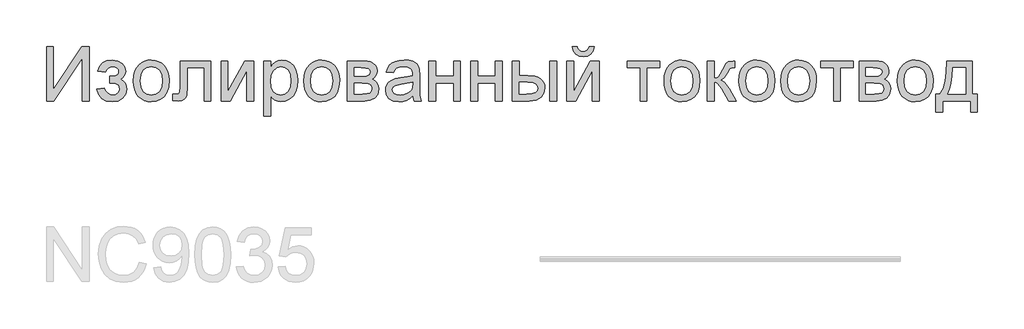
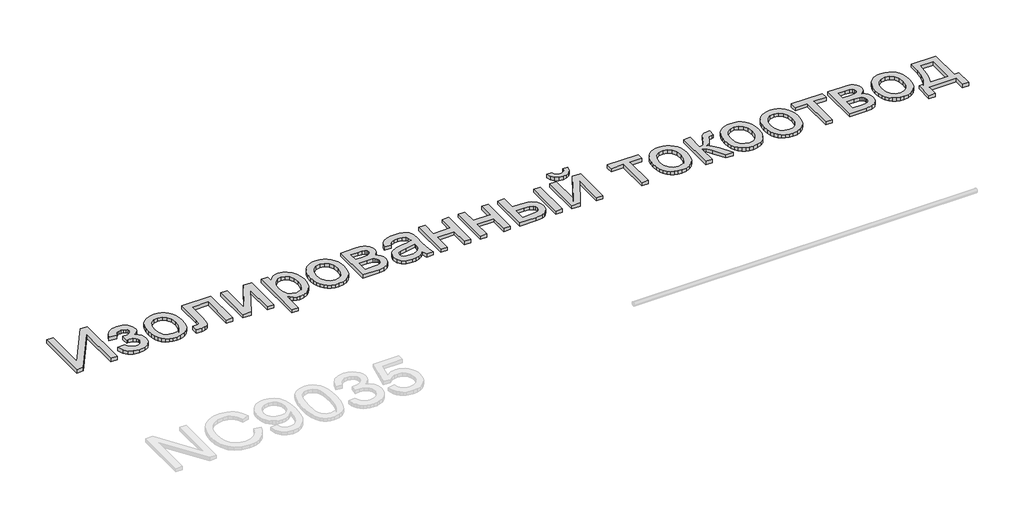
# One storey, part 33 of 124: 1 proxy.
"""IFC4 building model written with IfcOpenShell, lengths in millimetres."""

from ifc_helpers import new_model, si_unit, origin, origin_with_axes, place, context, project, spatial, polyline, outline, extrude, element, save

model = new_model("IFC4")

# Units and contexts
model_context = context("Model", 3, world=origin())
ifc_project = project(units=[si_unit("LENGTHUNIT", "METRE", prefix="MILLI")], contexts=[model_context])

# Site, building, storey
site = spatial("IfcSite", under=ifc_project)
building = spatial("IfcBuilding", under=site)
storey = spatial("IfcBuildingStorey", under=building, Name="Этаж 01", Elevation=0.0)

# Proxy
placement = place(None, origin())
element("IfcBuildingElementProxy", 1, Name="300", ObjectType="300", at=placement, inside=storey, context=model_context, shape_type="SweptSolid", body=[
    extrude(outline(polyline([(1299.8220677, -92247.5042234), (1337.493184, -92247.5042234), (1337.493184, -92486.1860619), (1495.2409835, -92247.5042234), (1535.2665446, -92247.5042234), (1535.2665446, -92548.8731539), (1497.5954283, -92548.8731539), (1497.5954283, -92310.853503), (1340.2155108, -92548.8731539), (1299.8220677, -92548.8731539), (1299.8220677, -92247.5042234)])), origin_with_axes(), (0.0, 0.0, 1.0), 20.0),
    extrude(outline(polyline([(1648.2798935, -92449.9864736), (1648.2798935, -92412.3153573), (1678.0047587, -92410.8438293), (1693.0143441, -92403.0079428), (1698.3118449, -92395.6594999), (1700.0776784, -92386.637194), (1697.7140366, -92375.9226309), (1690.6231112, -92367.6176949), (1679.7981835, -92362.292603), (1666.2325349, -92360.5175724), (1652.5197335, -92362.2834059), (1641.0326182, -92367.5809067), (1631.771189, -92376.4100745), (1624.7354458, -92388.7709096), (1582.35544, -92384.06202), (1593.5942349, -92357.2802108), (1610.6823536, -92338.150347), (1633.619796, -92326.6724288), (1662.4065621, -92322.846456), (1693.8972609, -92327.5093603), (1717.7360142, -92341.4980732), (1732.7455996, -92361.9615092), (1737.7487948, -92386.0485828), (1735.9691656, -92398.4094179), (1730.6302781, -92409.4458777), (1721.7321324, -92419.1579624), (1709.2747283, -92427.5456719), (1723.8152642, -92438.0119146), (1734.1803394, -92451.0165432), (1740.3883481, -92466.5963457), (1742.4576843, -92484.7881103), (1737.2061688, -92512.5172157), (1721.4516224, -92534.4889679), (1696.2609027, -92548.8087745), (1662.7008677, -92553.5820434), (1629.8765967, -92549.1674595), (1604.7594535, -92535.9237077), (1587.3494381, -92513.8507879), (1577.6465505, -92482.9487003), (1620.0265563, -92478.2398108), (1626.3725207, -92494.1691012), (1637.0227045, -92506.0516896), (1650.7447029, -92513.4461178), (1666.3061113, -92515.9109271), (1681.4628495, -92513.5472853), (1693.8236845, -92506.4563598), (1702.0458471, -92495.6866144), (1704.786568, -92482.2865128), (1703.0851138, -92471.6731172), (1697.9807511, -92462.4944614), (1683.4862005, -92451.89946), (1655.6375334, -92449.7657444), (1648.2798935, -92449.9864736)])), origin_with_axes(), (0.0, 0.0, 1.0), 20.0),
    extrude(outline(polyline([(1780.1288006, -92438.2142497), (1782.1659471, -92409.5516438), (1788.2773868, -92384.8529663), (1798.4631195, -92364.1182174), (1812.7231454, -92347.3473969), (1827.0797402, -92336.6282353), (1842.9262572, -92328.9716913), (1860.2626962, -92324.3777649), (1879.0890573, -92322.846456), (1899.8720908, -92324.7111579), (1918.6639629, -92330.3052635), (1935.4646738, -92339.6287728), (1950.2742234, -92352.6816859), (1962.3614462, -92369.0225442), (1970.9951767, -92388.2098895), (1976.1754151, -92410.2437218), (1977.9021612, -92435.124041), (1974.8487406, -92473.1814334), (1965.688479, -92502.1521405), (1950.6880906, -92523.8479812), (1930.11429, -92540.0807742), (1905.6777285, -92550.2067261), (1879.0890573, -92553.5820434), (1858.0025212, -92551.7242393), (1839.0359051, -92546.1508271), (1822.189209, -92536.8618067), (1807.4624328, -92523.8571782), (1795.5039687, -92507.3576707), (1786.9622087, -92487.5840135), (1781.8371526, -92464.5362065), (1780.1288006, -92438.2142497)]), holes=[polyline([(1817.7999169, -92438.1406733), (1822.1593185, -92472.2341372), (1835.2375235, -92496.523546), (1854.9192102, -92511.0640818), (1879.0890573, -92515.9109271), (1903.1485398, -92511.0364907), (1922.7934383, -92496.4131814), (1935.8716433, -92471.8018759), (1940.2310449, -92436.963451), (1935.8440521, -92403.8632684), (1922.6830737, -92379.9049535), (1903.010584, -92365.3644176), (1879.0890573, -92360.5175724), (1854.9192102, -92365.3460235), (1835.2375235, -92379.8313771), (1822.1593185, -92404.0656035), (1817.7999169, -92438.1406733)])]), origin_with_axes(), (0.0, 0.0, 1.0), 20.0),
    extrude(outline(polyline([(2039.1177252, -92327.5553456), (2208.6377486, -92327.5553456), (2208.6377486, -92548.6524247), (2170.9666323, -92548.6524247), (2170.9666323, -92365.2264619), (2076.7888415, -92365.2264619), (2076.7888415, -92470.8085945), (2074.2504557, -92519.5161707), (2069.495581, -92530.5434335), (2060.3077281, -92540.0807742), (2046.3650005, -92546.675059), (2027.3455014, -92548.8731539), (1996.7377194, -92546.9601675), (1996.7377194, -92511.2020376), (2013.5867147, -92511.2020376), (2030.6196511, -92508.884381), (2037.425468, -92501.5267411), (2039.1177252, -92468.6748789), (2039.1177252, -92327.5553456)])), origin_with_axes(), (0.0, 0.0, 1.0), 20.0),
    extrude(outline(polyline([(2265.144423, -92327.5553456), (2302.8155393, -92327.5553456), (2302.8155393, -92496.339605), (2395.3746493, -92327.5553456), (2444.0822255, -92327.5553456), (2444.0822255, -92548.8731539), (2406.4111092, -92548.8731539), (2406.4111092, -92381.1189641), (2314.4406104, -92548.8731539), (2265.144423, -92548.8731539), (2265.144423, -92327.5553456)])), origin_with_axes(), (0.0, 0.0, 1.0), 20.0),
    extrude(outline(polyline([(2500.5889, -92633.6331656), (2500.5889, -92327.5553456), (2538.2600163, -92327.5553456), (2538.2600163, -92364.4906979), (2550.5472749, -92346.2713421), (2564.3060615, -92333.2575165), (2580.3457165, -92325.4492212), (2599.4755803, -92322.846456), (2624.9514084, -92326.4884878), (2647.2266632, -92337.4145831), (2665.3632456, -92354.9625542), (2678.4230564, -92378.4702137), (2686.3141252, -92406.2269103), (2688.9444815, -92436.5219926), (2685.9738344, -92468.7392583), (2677.061893, -92497.5536156), (2662.493766, -92521.5027334), (2642.5545619, -92539.124281), (2619.3320109, -92549.9676028), (2594.9138435, -92553.5820434), (2577.5957986, -92551.1632193), (2562.1355577, -92543.906747), (2548.901003, -92532.9530605), (2538.2600163, -92519.4425943), (2538.2600163, -92633.6331656), (2500.5889, -92633.6331656)]), holes=[polyline([(2538.2600163, -92439.9800833), (2542.3343094, -92473.7516505), (2554.5571886, -92497.3696746), (2572.5926035, -92511.275614), (2594.1045031, -92515.9109271), (2615.9658907, -92511.1100671), (2634.461158, -92496.707487), (2647.0703134, -92472.2249402), (2651.2733652, -92437.1841801), (2647.1714809, -92403.596554), (2634.8658282, -92379.6474361), (2616.8580045, -92365.3000383), (2595.6496075, -92360.5175724), (2574.358437, -92365.6035409), (2555.6608346, -92380.8614467), (2542.6102208, -92405.813043), (2538.2600163, -92439.9800833)])]), origin_with_axes(), (0.0, 0.0, 1.0), 20.0),
    extrude(outline(polyline([(2721.9067082, -92438.2142497), (2723.9438548, -92409.5516438), (2730.0552944, -92384.8529663), (2740.2410272, -92364.1182174), (2754.501053, -92347.3473969), (2768.8576479, -92336.6282353), (2784.7041648, -92328.9716913), (2802.0406038, -92324.3777649), (2820.866965, -92322.846456), (2841.6499984, -92324.7111579), (2860.4418706, -92330.3052635), (2877.2425815, -92339.6287728), (2892.052131, -92352.6816859), (2904.1393538, -92369.0225442), (2912.7730844, -92388.2098895), (2917.9533227, -92410.2437218), (2919.6800689, -92435.124041), (2916.6266483, -92473.1814334), (2907.4663866, -92502.1521405), (2892.4659983, -92523.8479812), (2871.8921977, -92540.0807742), (2847.4556362, -92550.2067261), (2820.866965, -92553.5820434), (2799.7804288, -92551.7242393), (2780.8138127, -92546.1508271), (2763.9671166, -92536.8618067), (2749.2403405, -92523.8571782), (2737.2818764, -92507.3576707), (2728.7401163, -92487.5840135), (2723.6150603, -92464.5362065), (2721.9067082, -92438.2142497)]), holes=[polyline([(2759.5778246, -92438.1406733), (2763.9372262, -92472.2341372), (2777.0154311, -92496.523546), (2796.6971179, -92511.0640818), (2820.866965, -92515.9109271), (2844.9264474, -92511.0364907), (2864.571346, -92496.4131814), (2877.6495509, -92471.8018759), (2882.0089526, -92436.963451), (2877.6219598, -92403.8632684), (2864.4609814, -92379.9049535), (2844.7884917, -92365.3644176), (2820.866965, -92360.5175724), (2796.6971179, -92365.3460235), (2777.0154311, -92379.8313771), (2763.9372262, -92404.0656035), (2759.5778246, -92438.1406733)])]), origin_with_axes(), (0.0, 0.0, 1.0), 20.0),
    extrude(outline(polyline([(2962.0600747, -92327.5553456), (3045.0542528, -92327.5553456), (3071.7348945, -92328.8153414), (3090.5612556, -92332.5953289), (3104.4120127, -92339.7322396), (3116.1658425, -92351.0630051), (3124.194867, -92365.8242701), (3126.8712085, -92383.2526797), (3125.2525278, -92397.2965748), (3120.3964854, -92409.4090895), (3112.2846874, -92419.645406), (3100.8987397, -92428.0607067), (3114.8414673, -92435.8873961), (3126.2090209, -92448.4781574), (3133.7689959, -92464.8397091), (3136.2889876, -92483.9787699), (3129.906235, -92512.6919597), (3114.7311027, -92532.9070753), (3090.7084084, -92544.8816342), (3057.7829698, -92548.8731539), (2962.0600747, -92548.8731539), (2962.0600747, -92327.5553456)]), holes=[polyline([(2999.731191, -92412.3153573), (3036.9608489, -92412.3153573), (3067.6789955, -92410.4023709), (3082.6150045, -92402.7504254), (3087.5538203, -92396.4228551), (3089.2000922, -92388.9180624), (3086.3122186, -92377.6792674), (3077.6485976, -92370.4503862), (3061.9952187, -92366.532443), (3038.1380713, -92365.2264619), (2999.731191, -92365.2264619), (2999.731191, -92412.3153573)]), polyline([(2999.731191, -92511.2020376), (3045.9371696, -92511.2020376), (3071.1186922, -92509.5005834), (3086.9192239, -92504.3962207), (3095.3989039, -92495.1163973), (3098.6178713, -92480.8885612), (3097.0083876, -92471.4615851), (3092.1799364, -92462.7519788), (3084.7671142, -92455.9369649), (3075.4045174, -92452.1937656), (3042.2583496, -92449.9864736), (2999.731191, -92449.9864736), (2999.731191, -92511.2020376)])]), origin_with_axes(), (0.0, 0.0, 1.0), 20.0),
    extrude(outline(polyline([(3324.6445691, -92520.6198167), (3306.6459425, -92536.0524664), (3288.113887, -92546.1508271), (3268.6253383, -92551.7242393), (3247.7572322, -92553.5820434), (3216.2757304, -92549.1122772), (3193.0531795, -92535.7029785), (3178.7333728, -92515.34071), (3173.9601039, -92490.0120347), (3175.7627257, -92474.395444), (3181.170591, -92460.213593), (3189.5123153, -92448.0734872), (3200.1165138, -92438.5821317), (3226.4936528, -92426.2212967), (3259.0879976, -92420.555914), (3297.6052425, -92414.5962256), (3324.4238399, -92407.6064677), (3324.6445691, -92399.2187582), (3322.0510011, -92382.4065511), (3314.2702969, -92371.4068794), (3296.8694785, -92363.2398991), (3272.626055, -92360.5175724), (3250.1852533, -92362.3293912), (3234.5134803, -92367.7648477), (3223.8265084, -92377.8172232), (3216.3401098, -92393.4797991), (3178.6689935, -92388.7709096), (3185.2080959, -92368.1695179), (3194.9661658, -92351.9827101), (3208.8537112, -92339.6034809), (3227.7812398, -92330.4248251), (3250.9302144, -92324.7410483), (3277.4820974, -92322.846456), (3302.9487285, -92324.5203191), (3323.136253, -92329.5419084), (3338.3573705, -92337.0926863), (3348.9247808, -92346.3541155), (3355.9329328, -92357.8044426), (3360.4762755, -92371.9219142), (3362.3156855, -92404.884141), (3362.3156855, -92451.7523072), (3364.2286718, -92517.1985141), (3371.7334645, -92548.8731539), (3334.0623482, -92548.8731539), (3324.6445691, -92520.6198167)]), holes=[polyline([(3324.6445691, -92445.277584), (3263.8704635, -92456.8290787), (3231.4600598, -92462.9359198), (3216.7815682, -92472.8687337), (3211.6312202, -92487.3632843), (3214.4363204, -92498.565291), (3222.8516211, -92507.7439468), (3236.6931811, -92513.869182), (3255.7770596, -92515.9109271), (3276.0105694, -92513.6576499), (3293.8896343, -92506.8978182), (3308.384185, -92496.9374132), (3318.4641516, -92485.0824159), (3322.9339179, -92472.8687337), (3324.4238399, -92455.9461619), (3324.6445691, -92445.277584)])]), origin_with_axes(), (0.0, 0.0, 1.0), 20.0),
    extrude(outline(polyline([(3414.1134704, -92327.5553456), (3451.7845867, -92327.5553456), (3451.7845867, -92412.3153573), (3550.671267, -92412.3153573), (3550.671267, -92327.5553456), (3588.3423833, -92327.5553456), (3588.3423833, -92548.8731539), (3550.671267, -92548.8731539), (3550.671267, -92449.9864736), (3451.7845867, -92449.9864736), (3451.7845867, -92548.8731539), (3414.1134704, -92548.8731539), (3414.1134704, -92327.5553456)])), origin_with_axes(), (0.0, 0.0, 1.0), 20.0),
    extrude(outline(polyline([(3644.8490577, -92327.5553456), (3682.5201741, -92327.5553456), (3682.5201741, -92412.3153573), (3781.4068544, -92412.3153573), (3781.4068544, -92327.5553456), (3819.0779707, -92327.5553456), (3819.0779707, -92548.8731539), (3781.4068544, -92548.8731539), (3781.4068544, -92449.9864736), (3682.5201741, -92449.9864736), (3682.5201741, -92548.8731539), (3644.8490577, -92548.8731539), (3644.8490577, -92327.5553456)])), origin_with_axes(), (0.0, 0.0, 1.0), 20.0),
    extrude(outline(polyline([(4082.7757848, -92327.5553456), (4120.4469011, -92327.5553456), (4120.4469011, -92548.8731539), (4082.7757848, -92548.8731539), (4082.7757848, -92327.5553456)])), origin_with_axes(), (0.0, 0.0, 1.0), 20.0),
    extrude(outline(polyline([(3875.5846451, -92327.5553456), (3913.2557614, -92327.5553456), (3913.2557614, -92407.6064677), (3959.829622, -92407.6064677), (4000.0851093, -92412.3245543), (4016.3018075, -92418.2221626), (4029.9111421, -92426.4788141), (4040.6785882, -92436.8094004), (4048.3696212, -92448.9288128), (4052.984241, -92462.8370515), (4054.5224476, -92478.5341164), (4049.3629026, -92505.4906696), (4033.8842676, -92528.234974), (4022.0223726, -92537.2641777), (4007.0748672, -92543.7136089), (3967.9230259, -92548.8731539), (3875.5846451, -92548.8731539), (3875.5846451, -92327.5553456)]), holes=[polyline([(3913.2557614, -92511.2020376), (3951.9569473, -92511.2020376), (3981.957724, -92509.2246719), (4001.9153223, -92503.2925747), (4013.117329, -92493.1666228), (4016.8513313, -92478.6076928), (4014.0830193, -92466.3020401), (4005.7780832, -92455.4311271), (3988.0185799, -92447.8159698), (3956.8865661, -92445.277584), (3913.2557614, -92445.277584), (3913.2557614, -92511.2020376)])]), origin_with_axes(), (0.0, 0.0, 1.0), 20.0),
    extrude(outline(polyline([(4176.9535756, -92327.5553456), (4214.6246919, -92327.5553456), (4214.6246919, -92496.339605), (4307.1838019, -92327.5553456), (4355.891378, -92327.5553456), (4355.891378, -92548.8731539), (4318.2202617, -92548.8731539), (4318.2202617, -92381.1189641), (4226.2497629, -92548.8731539), (4176.9535756, -92548.8731539), (4176.9535756, -92327.5553456)])), origin_with_axes(), (0.0, 0.0, 1.0), 20.0),
    extrude(outline(polyline([(4299.3847036, -92247.5042234), (4327.6380408, -92247.5042234), (4321.5587908, -92271.6280853), (4309.3543056, -92289.4059827), (4291.5764082, -92300.3596691), (4268.7769216, -92304.0108979), (4244.0368574, -92300.3872602), (4224.8518113, -92289.5163473), (4211.7368182, -92271.766041), (4205.2069128, -92247.5042234), (4233.46025, -92247.5042234), (4237.4333756, -92259.9110437), (4244.0552515, -92268.7310146), (4253.362666, -92274.0009241), (4265.3924072, -92275.7575607), (4278.9672528, -92274.0561064), (4288.7897021, -92268.9517438), (4295.411578, -92260.1869552), (4299.3847036, -92247.5042234)])), origin_with_axes(), (0.0, 0.0, 1.0), 20.0),
    extrude(outline(polyline([(4511.2847328, -92327.5553456), (4690.2225352, -92327.5553456), (4690.2225352, -92365.2264619), (4619.5891922, -92365.2264619), (4619.5891922, -92548.8731539), (4581.9180759, -92548.8731539), (4581.9180759, -92365.2264619), (4511.2847328, -92365.2264619), (4511.2847328, -92327.5553456)])), origin_with_axes(), (0.0, 0.0, 1.0), 20.0),
    extrude(outline(polyline([(4713.7669829, -92438.2142497), (4715.8041295, -92409.5516438), (4721.9155691, -92384.8529663), (4732.1013019, -92364.1182174), (4746.3613277, -92347.3473969), (4760.7179226, -92336.6282353), (4776.5644395, -92328.9716913), (4793.9008785, -92324.3777649), (4812.7272396, -92322.846456), (4833.5102731, -92324.7111579), (4852.3021453, -92330.3052635), (4869.1028561, -92339.6287728), (4883.9124057, -92352.6816859), (4895.9996285, -92369.0225442), (4904.6333591, -92388.2098895), (4909.8135974, -92410.2437218), (4911.5403435, -92435.124041), (4908.486923, -92473.1814334), (4899.3266613, -92502.1521405), (4884.3262729, -92523.8479812), (4863.7524724, -92540.0807742), (4839.3159108, -92550.2067261), (4812.7272396, -92553.5820434), (4791.6407035, -92551.7242393), (4772.6740874, -92546.1508271), (4755.8273913, -92536.8618067), (4741.1006152, -92523.8571782), (4729.1421511, -92507.3576707), (4720.600391, -92487.5840135), (4715.4753349, -92464.5362065), (4713.7669829, -92438.2142497)]), holes=[polyline([(4751.4380992, -92438.1406733), (4755.7975009, -92472.2341372), (4768.8757058, -92496.523546), (4788.5573926, -92511.0640818), (4812.7272396, -92515.9109271), (4836.7867221, -92511.0364907), (4856.4316207, -92496.4131814), (4869.5098256, -92471.8018759), (4873.8692272, -92436.963451), (4869.4822344, -92403.8632684), (4856.3212561, -92379.9049535), (4836.6487664, -92365.3644176), (4812.7272396, -92360.5175724), (4788.5573926, -92365.3460235), (4768.8757058, -92379.8313771), (4755.7975009, -92404.0656035), (4751.4380992, -92438.1406733)])]), origin_with_axes(), (0.0, 0.0, 1.0), 20.0),
    extrude(outline(polyline([(4953.9203494, -92327.5553456), (4991.5914657, -92327.5553456), (4991.5914657, -92421.7331364), (5006.9137508, -92420.0408792), (5016.8281706, -92414.9641076), (5025.6021561, -92401.7203558), (5037.5031387, -92375.5271578), (5054.6832279, -92341.4980732), (5069.8399661, -92330.4248251), (5097.3943275, -92327.5553456), (5104.6048146, -92327.5553456), (5104.6048146, -92365.4471911), (5094.4512715, -92365.2264619), (5076.0571718, -92369.1995874), (5063.1077256, -92393.9948339), (5047.9141992, -92420.8134314), (5026.6138316, -92433.9468186), (5038.5516024, -92439.2489178), (5050.3790085, -92448.6069161), (5073.702727, -92479.4906096), (5114.0225937, -92548.8731539), (5071.2011294, -92548.8731539), (5031.6906032, -92480.9621376), (5011.8249754, -92452.2305538), (5002.535955, -92447.0158265), (4991.5914657, -92445.277584), (4991.5914657, -92548.8731539), (4953.9203494, -92548.8731539), (4953.9203494, -92327.5553456)])), origin_with_axes(), (0.0, 0.0, 1.0), 20.0),
    extrude(outline(polyline([(5128.1492623, -92438.2142497), (5130.1864088, -92409.5516438), (5136.2978485, -92384.8529663), (5146.4835812, -92364.1182174), (5160.7436071, -92347.3473969), (5175.1002019, -92336.6282353), (5190.9467189, -92328.9716913), (5208.2831579, -92324.3777649), (5227.109519, -92322.846456), (5247.8925525, -92324.7111579), (5266.6844246, -92330.3052635), (5283.4851355, -92339.6287728), (5298.2946851, -92352.6816859), (5310.3819079, -92369.0225442), (5319.0156384, -92388.2098895), (5324.1958768, -92410.2437218), (5325.9226229, -92435.124041), (5322.8692023, -92473.1814334), (5313.7089407, -92502.1521405), (5298.7085523, -92523.8479812), (5278.1347517, -92540.0807742), (5253.6981902, -92550.2067261), (5227.109519, -92553.5820434), (5206.0229829, -92551.7242393), (5187.0563668, -92546.1508271), (5170.2096707, -92536.8618067), (5155.4828945, -92523.8571782), (5143.5244304, -92507.3576707), (5134.9826704, -92487.5840135), (5129.8576143, -92464.5362065), (5128.1492623, -92438.2142497)]), holes=[polyline([(5165.8203786, -92438.1406733), (5170.1797803, -92472.2341372), (5183.2579852, -92496.523546), (5202.9396719, -92511.0640818), (5227.109519, -92515.9109271), (5251.1690015, -92511.0364907), (5270.8139, -92496.4131814), (5283.892105, -92471.8018759), (5288.2515066, -92436.963451), (5283.8645138, -92403.8632684), (5270.7035354, -92379.9049535), (5251.0310457, -92365.3644176), (5227.109519, -92360.5175724), (5202.9396719, -92365.3460235), (5183.2579852, -92379.8313771), (5170.1797803, -92404.0656035), (5165.8203786, -92438.1406733)])]), origin_with_axes(), (0.0, 0.0, 1.0), 20.0),
    extrude(outline(polyline([(5358.8848497, -92438.2142497), (5360.9219962, -92409.5516438), (5367.0334359, -92384.8529663), (5377.2191686, -92364.1182174), (5391.4791944, -92347.3473969), (5405.8357893, -92336.6282353), (5421.6823063, -92328.9716913), (5439.0187453, -92324.3777649), (5457.8451064, -92322.846456), (5478.6281398, -92324.7111579), (5497.420012, -92330.3052635), (5514.2207229, -92339.6287728), (5529.0302724, -92352.6816859), (5541.1174952, -92369.0225442), (5549.7512258, -92388.2098895), (5554.9314642, -92410.2437218), (5556.6582103, -92435.124041), (5553.6047897, -92473.1814334), (5544.444528, -92502.1521405), (5529.4441397, -92523.8479812), (5508.8703391, -92540.0807742), (5484.4337776, -92550.2067261), (5457.8451064, -92553.5820434), (5436.7585703, -92551.7242393), (5417.7919542, -92546.1508271), (5400.945258, -92536.8618067), (5386.2184819, -92523.8571782), (5374.2600178, -92507.3576707), (5365.7182577, -92487.5840135), (5360.5932017, -92464.5362065), (5358.8848497, -92438.2142497)]), holes=[polyline([(5396.555966, -92438.1406733), (5400.9153676, -92472.2341372), (5413.9935726, -92496.523546), (5433.6752593, -92511.0640818), (5457.8451064, -92515.9109271), (5481.9045889, -92511.0364907), (5501.5494874, -92496.4131814), (5514.6276923, -92471.8018759), (5518.987094, -92436.963451), (5514.6001012, -92403.8632684), (5501.4391228, -92379.9049535), (5481.7666331, -92365.3644176), (5457.8451064, -92360.5175724), (5433.6752593, -92365.3460235), (5413.9935726, -92379.8313771), (5400.9153676, -92404.0656035), (5396.555966, -92438.1406733)])]), origin_with_axes(), (0.0, 0.0, 1.0), 20.0),
    extrude(outline(polyline([(5580.202658, -92327.5553456), (5759.1404604, -92327.5553456), (5759.1404604, -92365.2264619), (5688.5071174, -92365.2264619), (5688.5071174, -92548.8731539), (5650.836001, -92548.8731539), (5650.836001, -92365.2264619), (5580.202658, -92365.2264619), (5580.202658, -92327.5553456)])), origin_with_axes(), (0.0, 0.0, 1.0), 20.0),
    extrude(outline(polyline([(5792.1026872, -92327.5553456), (5875.0968653, -92327.5553456), (5901.777507, -92328.8153414), (5920.6038681, -92332.5953289), (5934.4546252, -92339.7322396), (5946.208455, -92351.0630051), (5954.2374795, -92365.8242701), (5956.913821, -92383.2526797), (5955.2951403, -92397.2965748), (5950.4390979, -92409.4090895), (5942.3272999, -92419.645406), (5930.9413522, -92428.0607067), (5944.8840798, -92435.8873961), (5956.2516334, -92448.4781574), (5963.8116084, -92464.8397091), (5966.3316001, -92483.9787699), (5959.9488475, -92512.6919597), (5944.7737152, -92532.9070753), (5920.7510209, -92544.8816342), (5887.8255823, -92548.8731539), (5792.1026872, -92548.8731539), (5792.1026872, -92327.5553456)]), holes=[polyline([(5829.7738035, -92412.3153573), (5867.0034614, -92412.3153573), (5897.721608, -92410.4023709), (5912.657617, -92402.7504254), (5917.5964328, -92396.4228551), (5919.2427047, -92388.9180624), (5916.3548311, -92377.6792674), (5907.6912101, -92370.4503862), (5892.0378312, -92366.532443), (5868.1806838, -92365.2264619), (5829.7738035, -92365.2264619), (5829.7738035, -92412.3153573)]), polyline([(5829.7738035, -92511.2020376), (5875.9797821, -92511.2020376), (5901.1613047, -92509.5005834), (5916.9618364, -92504.3962207), (5925.4415163, -92495.1163973), (5928.6604838, -92480.8885612), (5927.0510001, -92471.4615851), (5922.2225489, -92462.7519788), (5914.8097267, -92455.9369649), (5905.4471299, -92452.1937656), (5872.3009621, -92449.9864736), (5829.7738035, -92449.9864736), (5829.7738035, -92511.2020376)])]), origin_with_axes(), (0.0, 0.0, 1.0), 20.0),
    extrude(outline(polyline([(6004.0027164, -92438.2142497), (6006.039863, -92409.5516438), (6012.1513026, -92384.8529663), (6022.3370354, -92364.1182174), (6036.5970612, -92347.3473969), (6050.9536561, -92336.6282353), (6066.800173, -92328.9716913), (6084.136612, -92324.3777649), (6102.9629731, -92322.846456), (6123.7460066, -92324.7111579), (6142.5378788, -92330.3052635), (6159.3385896, -92339.6287728), (6174.1481392, -92352.6816859), (6186.235362, -92369.0225442), (6194.8690926, -92388.2098895), (6200.0493309, -92410.2437218), (6201.776077, -92435.124041), (6198.7226565, -92473.1814334), (6189.5623948, -92502.1521405), (6174.5620064, -92523.8479812), (6153.9882059, -92540.0807742), (6129.5516443, -92550.2067261), (6102.9629731, -92553.5820434), (6081.876437, -92551.7242393), (6062.9098209, -92546.1508271), (6046.0631248, -92536.8618067), (6031.3363487, -92523.8571782), (6019.3778846, -92507.3576707), (6010.8361245, -92487.5840135), (6005.7110684, -92464.5362065), (6004.0027164, -92438.2142497)]), holes=[polyline([(6041.6738327, -92438.1406733), (6046.0332344, -92472.2341372), (6059.1114393, -92496.523546), (6078.793126, -92511.0640818), (6102.9629731, -92515.9109271), (6127.0224556, -92511.0364907), (6146.6673541, -92496.4131814), (6159.7455591, -92471.8018759), (6164.1049607, -92436.963451), (6159.7179679, -92403.8632684), (6146.5569895, -92379.9049535), (6126.8844999, -92365.3644176), (6102.9629731, -92360.5175724), (6078.793126, -92365.3460235), (6059.1114393, -92379.8313771), (6046.0332344, -92404.0656035), (6041.6738327, -92438.1406733)])]), origin_with_axes(), (0.0, 0.0, 1.0), 20.0),
    extrude(outline(polyline([(6277.1183096, -92327.5553456), (6418.3849958, -92327.5553456), (6418.3849958, -92511.2020376), (6446.638333, -92511.2020376), (6446.638333, -92610.0887179), (6408.9672167, -92610.0887179), (6408.9672167, -92548.8731539), (6253.5738619, -92548.8731539), (6253.5738619, -92610.0887179), (6215.9027456, -92610.0887179), (6215.9027456, -92511.2020376), (6239.4471933, -92511.2020376), (6256.5629032, -92480.2723588), (6268.5466591, -92439.3546839), (6275.3984613, -92388.4490128), (6277.1183096, -92327.5553456)]), holes=[polyline([(6310.0805364, -92365.2264619), (6306.9903276, -92411.349667), (6301.2513685, -92451.0533314), (6292.863659, -92484.3374549), (6281.8271992, -92511.2020376), (6380.7138795, -92511.2020376), (6380.7138795, -92365.2264619), (6310.0805364, -92365.2264619)])]), origin_with_axes(), (0.0, 0.0, 1.0), 20.0),
])

save(model, "model.ifc")
